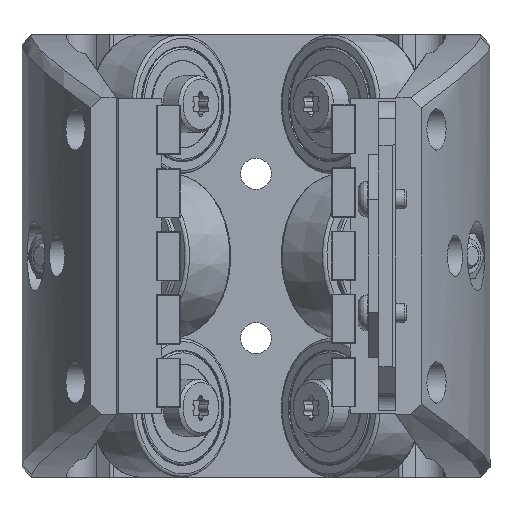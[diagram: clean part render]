
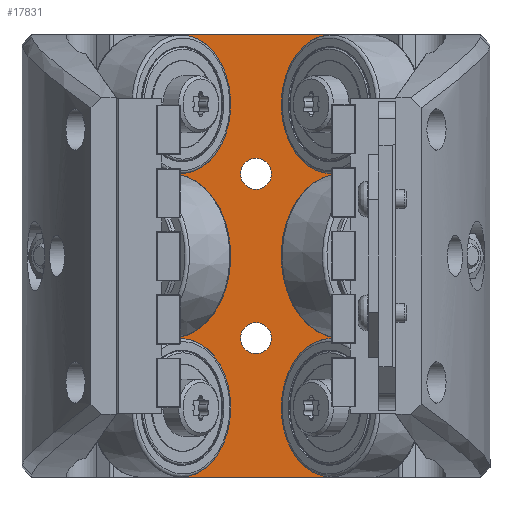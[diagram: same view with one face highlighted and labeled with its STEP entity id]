
A CAD part, front view. The second image highlights one B-rep face of the part: STEP entity #17831.
In plain terms, the highlighted planar face has unit normal (0, -1, 0).
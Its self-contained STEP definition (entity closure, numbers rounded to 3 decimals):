
#423=LINE('',#26309,#1780);
#424=LINE('',#26311,#1781);
#425=LINE('',#26313,#1782);
#426=LINE('',#26314,#1783);
#1780=VECTOR('',#21072,70.);
#1781=VECTOR('',#21073,30.456);
#1782=VECTOR('',#21074,70.);
#1783=VECTOR('',#21075,30.456);
#3557=FACE_BOUND('',#5033,.T.);
#3558=FACE_BOUND('',#5034,.T.);
#3559=FACE_BOUND('',#5035,.T.);
#3898=FACE_OUTER_BOUND('',#5032,.T.);
#5032=EDGE_LOOP('',(#11436,#11437,#11438,#11439));
#5033=EDGE_LOOP('',(#11440));
#5034=EDGE_LOOP('',(#11441));
#5035=EDGE_LOOP('',(#11442));
#6423=CIRCLE('',#18961,2.459);
#6425=CIRCLE('',#18964,2.459);
#6450=CIRCLE('',#18999,0.795);
#7307=VERTEX_POINT('',#26181);
#7309=VERTEX_POINT('',#26186);
#7362=VERTEX_POINT('',#26304);
#7363=VERTEX_POINT('',#26307);
#7364=VERTEX_POINT('',#26308);
#7365=VERTEX_POINT('',#26310);
#7366=VERTEX_POINT('',#26312);
#8915=EDGE_CURVE('',#7307,#7307,#6423,.T.);
#8917=EDGE_CURVE('',#7309,#7309,#6425,.T.);
#8972=EDGE_CURVE('',#7362,#7362,#6450,.T.);
#8973=EDGE_CURVE('',#7363,#7364,#423,.T.);
#8974=EDGE_CURVE('',#7365,#7364,#424,.T.);
#8975=EDGE_CURVE('',#7366,#7365,#425,.T.);
#8976=EDGE_CURVE('',#7363,#7366,#426,.T.);
#11436=ORIENTED_EDGE('',*,*,#8973,.T.);
#11437=ORIENTED_EDGE('',*,*,#8974,.F.);
#11438=ORIENTED_EDGE('',*,*,#8975,.F.);
#11439=ORIENTED_EDGE('',*,*,#8976,.F.);
#11440=ORIENTED_EDGE('',*,*,#8917,.T.);
#11441=ORIENTED_EDGE('',*,*,#8915,.T.);
#11442=ORIENTED_EDGE('',*,*,#8972,.F.);
#16214=PLANE('',#19000);
#17831=ADVANCED_FACE('',(#3898,#3557,#3558,#3559),#16214,.T.);
#18961=AXIS2_PLACEMENT_3D('',#26182,#20962,#20963);
#18964=AXIS2_PLACEMENT_3D('',#26187,#20968,#20969);
#18999=AXIS2_PLACEMENT_3D('',#26305,#21068,#21069);
#19000=AXIS2_PLACEMENT_3D('',#26306,#21070,#21071);
#20962=DIRECTION('center_axis',(0.,1.,0.));
#20963=DIRECTION('ref_axis',(1.,0.,0.));
#20968=DIRECTION('center_axis',(0.,1.,0.));
#20969=DIRECTION('ref_axis',(1.,0.,0.));
#21068=DIRECTION('center_axis',(0.,-1.,0.));
#21069=DIRECTION('ref_axis',(1.,0.,0.));
#21070=DIRECTION('center_axis',(0.,-1.,0.));
#21071=DIRECTION('ref_axis',(-1.,0.,0.));
#21072=DIRECTION('',(0.,0.,1.));
#21073=DIRECTION('',(1.,0.,0.));
#21074=DIRECTION('',(0.,0.,1.));
#21075=DIRECTION('',(-1.,0.,0.));
#26181=CARTESIAN_POINT('',(-2.459,22.5,37.));
#26182=CARTESIAN_POINT('Origin',(0.,22.5,
37.));
#26186=CARTESIAN_POINT('',(-2.459,22.5,11.));
#26187=CARTESIAN_POINT('Origin',(0.,22.5,
11.));
#26304=CARTESIAN_POINT('',(7.5,22.5,47.205));
#26305=CARTESIAN_POINT('Origin',(7.5,22.5,48.));
#26306=CARTESIAN_POINT('Origin',(7.5,22.5,47.205));
#26307=CARTESIAN_POINT('',(15.228,22.5,-11.));
#26308=CARTESIAN_POINT('',(15.228,22.5,59.));
#26309=CARTESIAN_POINT('',(15.228,22.5,24.));
#26310=CARTESIAN_POINT('',(-15.228,22.5,59.));
#26311=CARTESIAN_POINT('',(-15.228,22.5,59.));
#26312=CARTESIAN_POINT('',(-15.228,22.5,-11.));
#26313=CARTESIAN_POINT('',(-15.228,22.5,24.));
#26314=CARTESIAN_POINT('',(-15.228,22.5,-11.));
